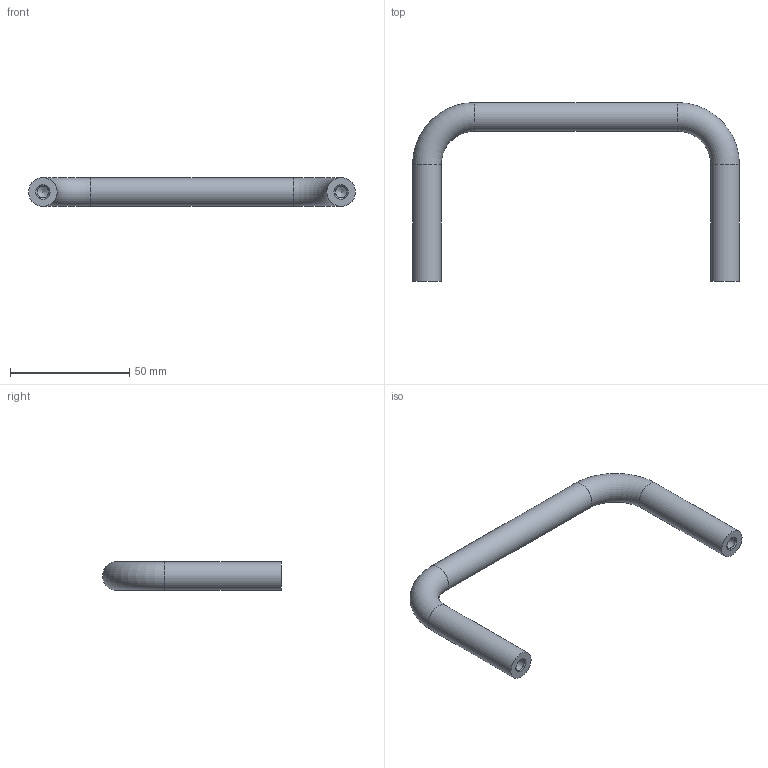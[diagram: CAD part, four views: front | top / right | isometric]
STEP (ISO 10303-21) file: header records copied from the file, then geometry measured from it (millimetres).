
FILE_DESCRIPTION(/* description */ ('STEP AP214'),/* implementation_level */ '2;1');
FILE_NAME(/* name */ 'Cabinet U-Handle_ Stainless Steel GN 435-NI-12-125-75-GS',/* time_stamp */ '2023-11-17T11:16:30+01:00',/* author */ ('License CC BY-ND 4.0'),/* organization */ ('CADENAS'),/* preprocessor_version */ 'ST-DEVELOPER v19.3',/* originating_system */ 'PARTsolutions',/* authorisation */ ' ');
FILE_SCHEMA (('AUTOMOTIVE_DESIGN {1 0 10303 214 3 1 1}'));
Length unit declared in the file: millimetre
Products named in the file (1): Cabinet U-Handle, Stainless Steel GN 435-NI-12-125-75-GS
Bounding box: 137 x 75 x 12 mm (x, y, z)
Volume: 27171.7 mm3; surface area: 9985.4 mm2
Topology: 1 solids, 1 shells, 13 faces, 30 edges, 19 vertices
Faces by surface type: cylinder 5, cone 4, plane 2, torus 2
Full cylindrical faces by diameter (mm): 4.917 x2, 12 x3
Entity records: 292 total; most frequent: DIRECTION 52, CARTESIAN_POINT 40, FACE_BOUND 26, AXIS2_PLACEMENT_3D 26, ORIENTED_EDGE 24, EDGE_LOOP 24, VERTEX_POINT 14, ADVANCED_FACE 13
